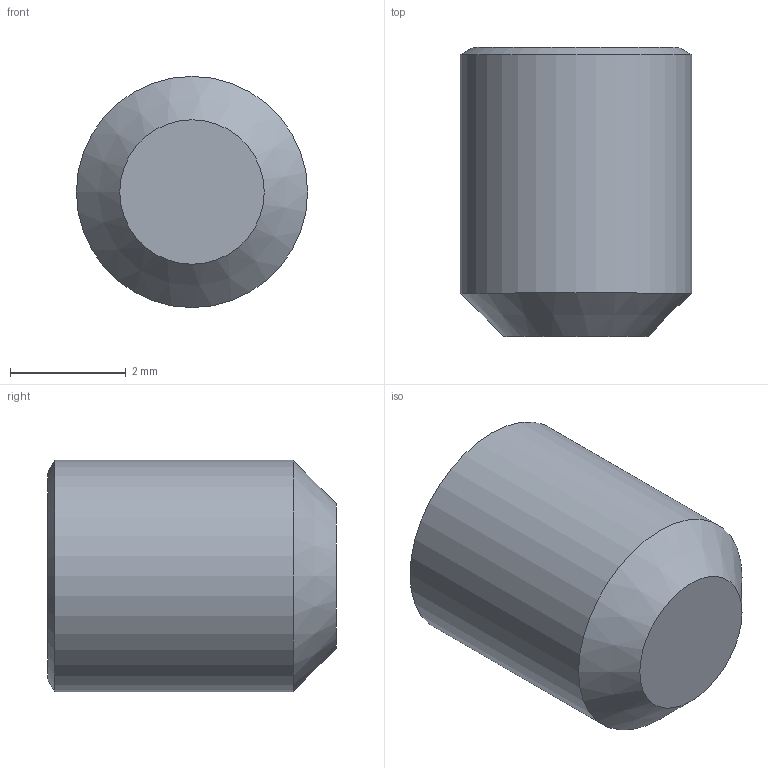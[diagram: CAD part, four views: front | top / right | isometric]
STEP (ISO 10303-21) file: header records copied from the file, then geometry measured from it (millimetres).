
FILE_DESCRIPTION(/* description */ (''),/* implementation_level */ '2;1');
FILE_NAME(/* name */ 'C:\Users\D\Documents\Inventor\各種小物\JIS\止めねじ\平先\M4\M4x5.stp',/* time_stamp */ '2022-06-23T14:24:17+09:00',/* author */ ('D'),/* organization */ (''),/* preprocessor_version */ 'ST-DEVELOPER v18',/* originating_system */ 'Autodesk Inventor 2020',/* authorisation */ '');
FILE_SCHEMA (('AUTOMOTIVE_DESIGN { 1 0 10303 214 3 1 1 }'));
Length unit declared in the file: millimetre
Products named in the file (1): M1.6x2
Bounding box: 4 x 5 x 4 mm (x, y, z)
Volume: 50 mm3; surface area: 98.8 mm2
Topology: 1 solids, 1 shells, 12 faces, 28 edges, 18 vertices
Faces by surface type: plane 8, cone 3, cylinder 1
Full cylindrical faces by diameter (mm): 4 x1
Entity records: 369 total; most frequent: CARTESIAN_POINT 72, ORIENTED_EDGE 54, DIRECTION 50, EDGE_CURVE 27, VERTEX_POINT 18, AXIS2_PLACEMENT_3D 17, LINE 16, VECTOR 16
